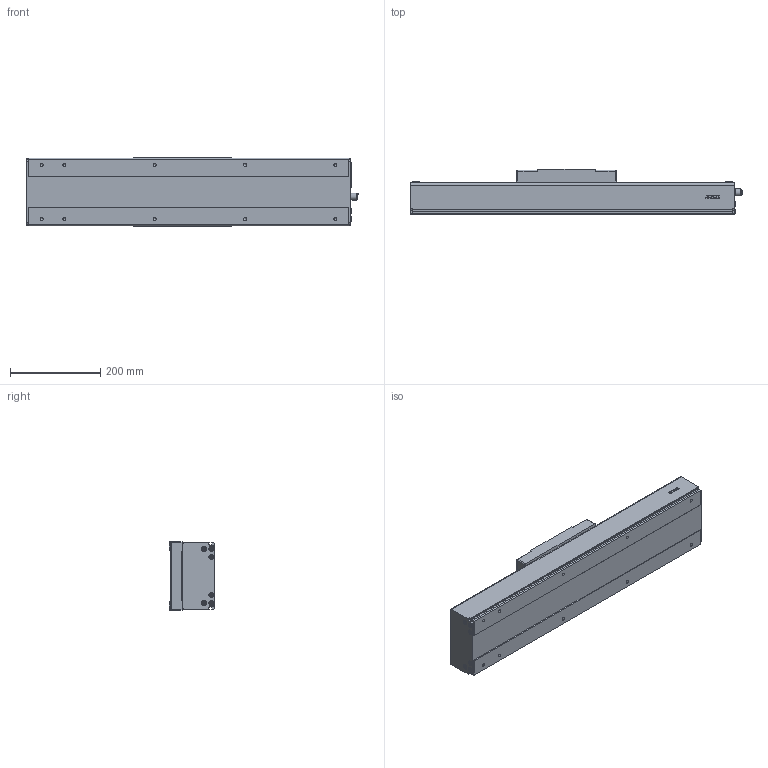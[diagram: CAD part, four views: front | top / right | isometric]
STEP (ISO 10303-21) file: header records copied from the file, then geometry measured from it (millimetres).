
FILE_DESCRIPTION(/* description */ (''),/* implementation_level */ '2;1');
FILE_NAME(/* name */ 'D:\混合母檔20191031\混和母檔\混和母檔\bin\Debug\Download\3D\KS150-10C-200AFI\KS150-10C-200AFI.stp',/* time_stamp */ '2019-11-04T15:43:04+08:00',/* author */ ('user'),/* organization */ (''),/* preprocessor_version */ 'ST-DEVELOPER v16.13',/* originating_system */ 'Autodesk Inventor 2018',/* authorisation */ '');
FILE_SCHEMA (('AUTOMOTIVE_DESIGN { 1 0 10303 214 3 1 1 }'));
Length unit declared in the file: millimetre
Products named in the file (3): KS150-10C-200AFI; KS150-FI; KS150-SL
Assembly tree (2 placements, depth 2):
  KS150-10C-200AFI
    KS150-FI
    KS150-SL
Bounding box: 735.05 x 100 x 152.4 mm (x, y, z)
Volume: 3439638.8 mm3; surface area: 789000.3 mm2
Topology: 4 solids, 8 shells, 1233 faces, 3255 edges, 2112 vertices
Faces by surface type: plane 615, cone 224, cylinder 186, bspline 136, torus 68, sphere 4
Full cylindrical faces by diameter (mm): 3.242 x12, 3.571 x8, 4.134 x4, 4.5 x8, 4.509 x6, 4.917 x4, 5 x18, 5.5 x12, 6 x2, 6.647 x14, 8 x4, 8.4 x8, 9.3 x12, 10.437 x1, 12 x1, 14 x1, 15 x1, 15.538 x1, 23 x1, 46 x1, 50 x1
Entity records: 40808 total; most frequent: CARTESIAN_POINT 12696, ORIENTED_EDGE 5824, DIRECTION 5393, EDGE_CURVE 2912, VERTEX_POINT 2008, AXIS2_PLACEMENT_3D 1864, LINE 1665, VECTOR 1665
